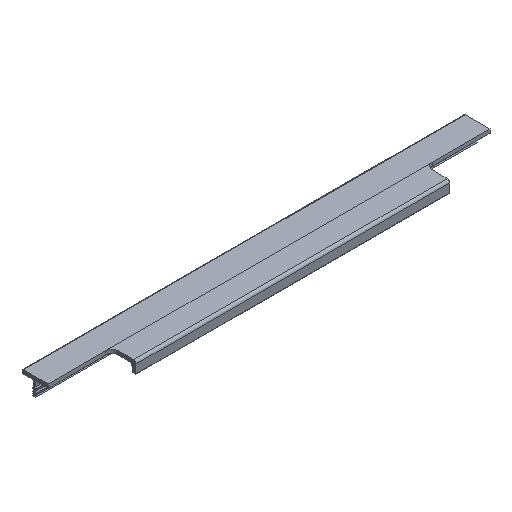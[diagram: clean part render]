
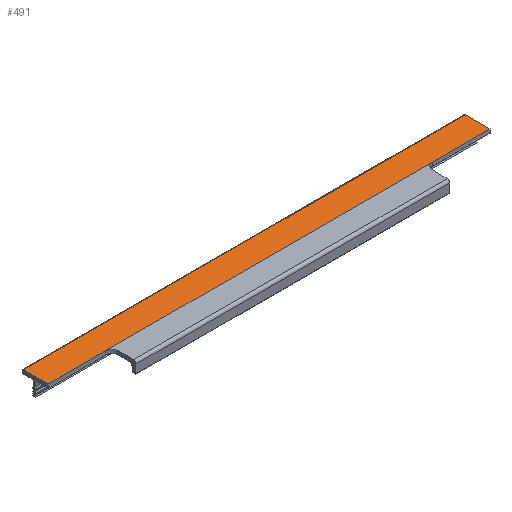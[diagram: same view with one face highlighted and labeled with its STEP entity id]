
A CAD part, isometric view. The second image highlights one B-rep face of the part: STEP entity #491.
In plain terms, the highlighted planar face has unit normal (0, 0, 1).
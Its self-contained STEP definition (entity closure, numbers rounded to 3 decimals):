
#257 = VERTEX_POINT( '', #728 );
#265 = VERTEX_POINT( '', #737 );
#363 = VERTEX_POINT( '', #845 );
#385 = EDGE_CURVE( '', #527, #517, #867, .T. );
#461 = EDGE_CURVE( '', #527, #265, #950, .T. );
#463 = VERTEX_POINT( '', #952 );
#491 = ADVANCED_FACE( '', ( #981 ), #982, .T. );
#509 = EDGE_CURVE( '', #463, #257, #1002, .T. );
#517 = VERTEX_POINT( '', #1010 );
#527 = VERTEX_POINT( '', #1020 );
#541 = EDGE_CURVE( '', #265, #257, #1037, .T. );
#595 = EDGE_CURVE( '', #363, #463, #1096, .T. );
#655 = EDGE_CURVE( '', #517, #363, #1159, .T. );
#728 = CARTESIAN_POINT( '', ( -172.5, -11., 3. ) );
#737 = CARTESIAN_POINT( '', ( -172.5, 8.286, 3. ) );
#845 = CARTESIAN_POINT( '', ( 127.5, -11., 3. ) );
#867 = LINE( '', #1426, #1427 );
#950 = LINE( '', #1540, #1541 );
#952 = CARTESIAN_POINT( '', ( -127.5, -11., 3. ) );
#981 = FACE_OUTER_BOUND( '', #1585, .T. );
#982 = PLANE( '', #1586 );
#1002 = LINE( '', #1615, #1616 );
#1010 = CARTESIAN_POINT( '', ( 172.5, -11., 3. ) );
#1020 = CARTESIAN_POINT( '', ( 172.5, 8.286, 3. ) );
#1037 = LINE( '', #1663, #1664 );
#1096 = LINE( '', #1749, #1750 );
#1159 = LINE( '', #1838, #1839 );
#1426 = CARTESIAN_POINT( '', ( 172.5, 8.286, 3. ) );
#1427 = VECTOR( '', #2111, 1. );
#1540 = CARTESIAN_POINT( '', ( 172.5, 8.286, 3. ) );
#1541 = VECTOR( '', #2185, 1. );
#1585 = EDGE_LOOP( '', ( #2209, #2210, #2211, #2212, #2213, #2214 ) );
#1586 = AXIS2_PLACEMENT_3D( '', #2215, #2216, #2217 );
#1615 = CARTESIAN_POINT( '', ( 172.5, -11., 3. ) );
#1616 = VECTOR( '', #2244, 1. );
#1663 = CARTESIAN_POINT( '', ( -172.5, 8.286, 3. ) );
#1664 = VECTOR( '', #2290, 1. );
#1749 = CARTESIAN_POINT( '', ( 172.5, -11., 3. ) );
#1750 = VECTOR( '', #2346, 1. );
#1838 = CARTESIAN_POINT( '', ( 172.5, -11., 3. ) );
#1839 = VECTOR( '', #2392, 1. );
#2111 = DIRECTION( '', ( 0., -1., 0. ) );
#2185 = DIRECTION( '', ( -1., 0., 0. ) );
#2209 = ORIENTED_EDGE( '', *, *, #541, .T. );
#2210 = ORIENTED_EDGE( '', *, *, #509, .F. );
#2211 = ORIENTED_EDGE( '', *, *, #595, .F. );
#2212 = ORIENTED_EDGE( '', *, *, #655, .F. );
#2213 = ORIENTED_EDGE( '', *, *, #385, .F. );
#2214 = ORIENTED_EDGE( '', *, *, #461, .T. );
#2215 = CARTESIAN_POINT( '', ( 172.5, 8.286, 3. ) );
#2216 = DIRECTION( '', ( 0., 0., 1. ) );
#2217 = DIRECTION( '', ( 0., 1., 0. ) );
#2244 = DIRECTION( '', ( -1., 0., 0. ) );
#2290 = DIRECTION( '', ( 0., -1., 0. ) );
#2346 = DIRECTION( '', ( -1., 0., 0. ) );
#2392 = DIRECTION( '', ( -1., 0., 0. ) );
